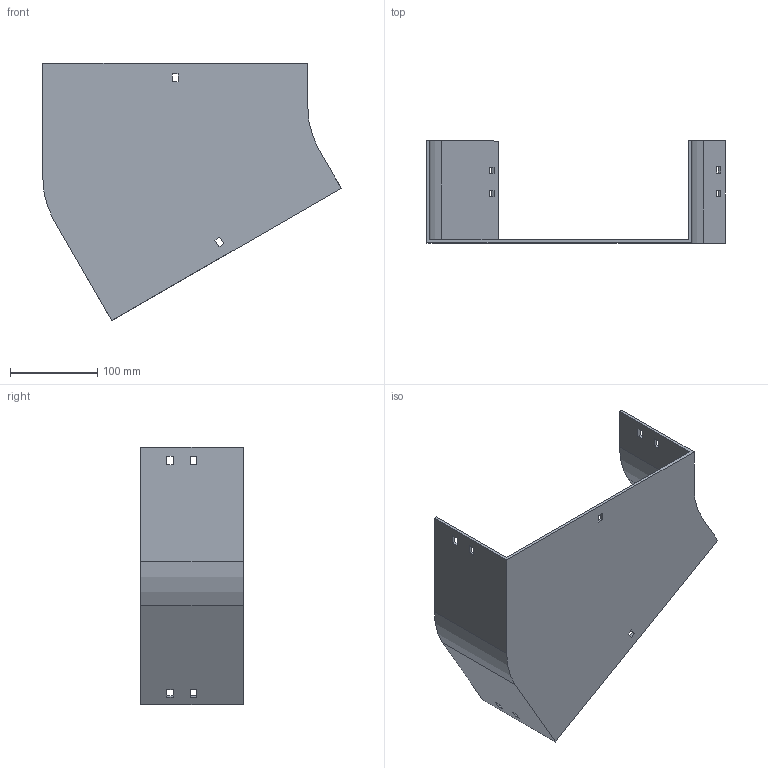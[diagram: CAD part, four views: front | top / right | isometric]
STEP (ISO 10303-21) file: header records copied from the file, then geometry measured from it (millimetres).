
FILE_DESCRIPTION (( 'STEP AP214' ), '1' );
FILE_NAME ('12B1J300.step', '2025-02-21T09:34:00', ( '' ), ( '' ), 'SwSTEP 2.0', 'SolidWorks 2023', '' );
FILE_SCHEMA (( 'AUTOMOTIVE_DESIGN' ));
Length unit declared in the file: millimetre
Products named in the file (1): 12B1J300
Bounding box: 342.4 x 117.5 x 295.3 mm (x, y, z)
Volume: 434305.4 mm3; surface area: 254704.2 mm2
Topology: 1 solids, 1 shells, 58 faces, 168 edges, 112 vertices
Faces by surface type: plane 54, cylinder 4
Entity records: 1943 total; most frequent: CARTESIAN_POINT 339, ORIENTED_EDGE 336, DIRECTION 294, EDGE_CURVE 168, VECTOR 160, LINE 160, VERTEX_POINT 112, EDGE_LOOP 78
